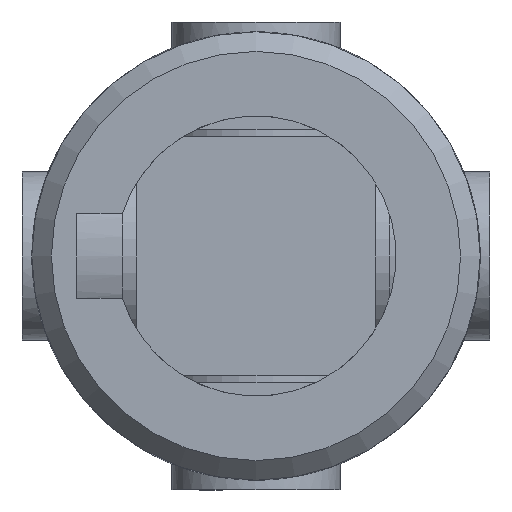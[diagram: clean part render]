
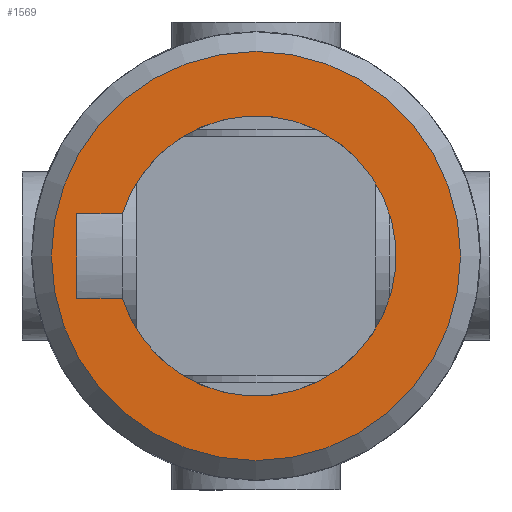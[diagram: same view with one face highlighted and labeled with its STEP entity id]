
A CAD part, front view. The second image highlights one B-rep face of the part: STEP entity #1569.
In plain terms, the highlighted planar face has unit normal (0, -1, 0).
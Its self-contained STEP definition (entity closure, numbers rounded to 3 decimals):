
#108=LINE('',#2979,#169);
#110=LINE('',#2985,#171);
#114=LINE('',#2997,#175);
#169=VECTOR('',#2044,3.);
#171=VECTOR('',#2050,1.63);
#175=VECTOR('',#2062,1.63);
#233=PLANE('',#1732);
#361=FACE_BOUND('',#578,.T.);
#444=FACE_OUTER_BOUND('',#577,.T.);
#577=EDGE_LOOP('',(#1383));
#578=EDGE_LOOP('',(#1384,#1385,#1386,#1387));
#657=CIRCLE('',#1718,5.);
#664=CIRCLE('',#1730,7.3);
#783=VERTEX_POINT('',#2976);
#784=VERTEX_POINT('',#2978);
#786=VERTEX_POINT('',#2984);
#790=VERTEX_POINT('',#2995);
#804=VERTEX_POINT('',#3096);
#974=EDGE_CURVE('',#784,#783,#108,.T.);
#977=EDGE_CURVE('',#786,#784,#110,.T.);
#983=EDGE_CURVE('',#783,#790,#114,.T.);
#992=EDGE_CURVE('',#790,#786,#657,.T.);
#1004=EDGE_CURVE('',#804,#804,#664,.T.);
#1383=ORIENTED_EDGE('',*,*,#1004,.F.);
#1384=ORIENTED_EDGE('',*,*,#983,.T.);
#1385=ORIENTED_EDGE('',*,*,#992,.T.);
#1386=ORIENTED_EDGE('',*,*,#977,.T.);
#1387=ORIENTED_EDGE('',*,*,#974,.T.);
#1569=ADVANCED_FACE('',(#444,#361),#233,.F.);
#1718=AXIS2_PLACEMENT_3D('',#3042,#2071,#2072);
#1730=AXIS2_PLACEMENT_3D('',#3097,#2096,#2097);
#1732=AXIS2_PLACEMENT_3D('',#3265,#2104,#2105);
#2044=DIRECTION('',(-1.,0.,0.));
#2050=DIRECTION('',(0.,0.,-1.));
#2062=DIRECTION('',(0.,0.,1.));
#2071=DIRECTION('center_axis',(0.,1.,0.));
#2072=DIRECTION('ref_axis',(-0.3,0.,0.954));
#2096=DIRECTION('center_axis',(0.,1.,0.));
#2097=DIRECTION('ref_axis',(1.,0.,0.));
#2104=DIRECTION('center_axis',(0.,1.,0.));
#2105=DIRECTION('ref_axis',(0.,0.,1.));
#2976=CARTESIAN_POINT('',(-1.5,-30.,-6.4));
#2978=CARTESIAN_POINT('',(1.5,-30.,-6.4));
#2979=CARTESIAN_POINT('',(0.75,-30.,-6.4));
#2984=CARTESIAN_POINT('',(1.5,-30.,-4.77));
#2985=CARTESIAN_POINT('',(1.5,-30.,-2.385));
#2995=CARTESIAN_POINT('',(-1.5,-30.,-4.77));
#2997=CARTESIAN_POINT('',(-1.5,-30.,-3.2));
#3042=CARTESIAN_POINT('Origin',(0.,-30.,0.));
#3096=CARTESIAN_POINT('',(-7.3,-30.,0.));
#3097=CARTESIAN_POINT('Origin',(0.,-30.,0.));
#3265=CARTESIAN_POINT('Origin',(0.,-30.,0.));
